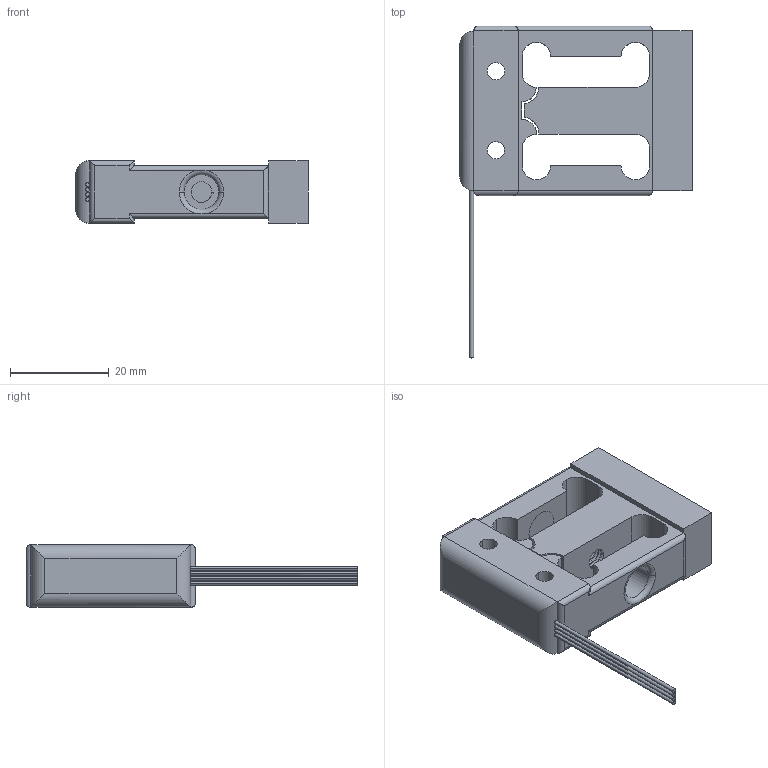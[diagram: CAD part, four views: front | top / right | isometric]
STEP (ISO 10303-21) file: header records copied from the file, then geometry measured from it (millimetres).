
FILE_DESCRIPTION (( 'STEP AP203' ), '1' );
FILE_NAME ('LSM300.STEP', '2024-11-14T08:29:38', ( '' ), ( '' ), 'SwSTEP 2.0', 'SolidWorks 2019', '' );
FILE_SCHEMA (( 'CONFIG_CONTROL_DESIGN' ));
Length unit declared in the file: millimetre
Products named in the file (1): LSM300
Bounding box: 47 x 67.15 x 12.7 mm (x, y, z)
Volume: 13066.5 mm3; surface area: 7090.9 mm2
Topology: 1 solids, 1 shells, 123 faces, 321 edges, 201 vertices
Faces by surface type: cylinder 80, plane 36, torus 4, bspline 3
Entity records: 5709 total; most frequent: CARTESIAN_POINT 2786, ORIENTED_EDGE 642, DIRECTION 557, EDGE_CURVE 321, VERTEX_POINT 201, AXIS2_PLACEMENT_3D 199, VECTOR 159, LINE 159
